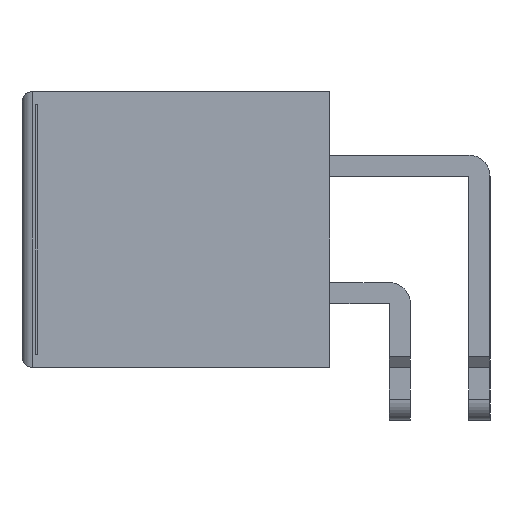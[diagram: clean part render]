
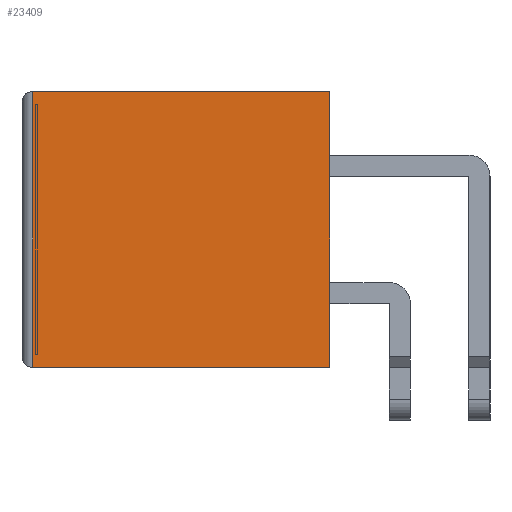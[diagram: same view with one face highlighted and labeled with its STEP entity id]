
A CAD part, left-side view. The second image highlights one B-rep face of the part: STEP entity #23409.
In plain terms, the highlighted planar face has unit normal (-1, 0, 0).
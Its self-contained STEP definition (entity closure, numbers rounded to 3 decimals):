
#1780=VERTEX_POINT('',#31992);
#1781=VERTEX_POINT('',#31996);
#1785=VERTEX_POINT('',#32008);
#1786=VERTEX_POINT('',#32010);
#4215=VECTOR('',#26775,1.);
#4219=VECTOR('',#26786,1.);
#4220=VECTOR('',#26787,1.);
#4221=VECTOR('',#26788,1.);
#6680=LINE('',#31995,#4215);
#6684=LINE('',#32007,#4219);
#6685=LINE('',#32009,#4220);
#6686=LINE('',#32011,#4221);
#9332=EDGE_CURVE('',#1781,#1780,#6680,.T.);
#9338=EDGE_CURVE('',#1781,#1785,#6684,.T.);
#9339=EDGE_CURVE('',#1785,#1786,#6685,.T.);
#9340=EDGE_CURVE('',#1786,#1780,#6686,.T.);
#13392=ORIENTED_EDGE('',*,*,#9332,.F.);
#13393=ORIENTED_EDGE('',*,*,#9338,.T.);
#13394=ORIENTED_EDGE('',*,*,#9339,.T.);
#13395=ORIENTED_EDGE('',*,*,#9340,.T.);
#20474=EDGE_LOOP('',(#13392,#13393,#13394,#13395));
#21944=FACE_BOUND('',#20474,.T.);
#23409=ADVANCED_FACE('',(#21944),#40163,.F.);
#24811=AXIS2_PLACEMENT_3D('',#32006,#26785,$);
#26775=DIRECTION('',(0.,0.,1.));
#26785=DIRECTION('',(1.,0.,0.));
#26786=DIRECTION('',(0.,-1.,0.));
#26787=DIRECTION('',(0.,0.,1.));
#26788=DIRECTION('',(0.,1.,0.));
#31992=CARTESIAN_POINT('',(0.,28.,0.));
#31995=CARTESIAN_POINT('',(0.,28.,-13.));
#31996=CARTESIAN_POINT('',(0.,28.,-26.));
#32006=CARTESIAN_POINT('',(0.,14.5,-13.));
#32007=CARTESIAN_POINT('',(0.,29.,-26.));
#32008=CARTESIAN_POINT('',(0.,0.,-26.));
#32009=CARTESIAN_POINT('',(0.,0.,-26.));
#32010=CARTESIAN_POINT('',(0.,0.,0.));
#32011=CARTESIAN_POINT('',(0.,0.,0.));
#40163=PLANE('',#24811);
